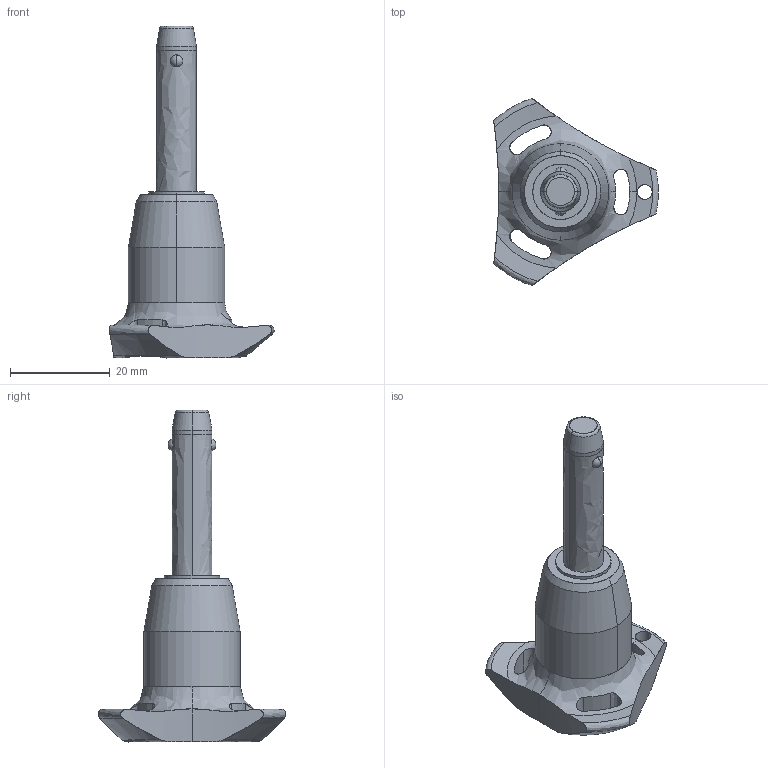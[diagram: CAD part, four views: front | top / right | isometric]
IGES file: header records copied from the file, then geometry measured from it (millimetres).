
Start section: SolidWorks IGES file using analytic representation for surfaces
Global section: file name: C:\Users\ianosborn\Desktop\33060_v2\33060.BK_v2_20240910_IGES\33060.W0835.igs; native system: SolidWorks 2019; preprocessor: SolidWorks 2019; author: IanOsborn; date: 240910.200915; units: millimetre
Bounding box: 33 x 37.51 x 66.5 mm (x, y, z)
Surface area: 4683.1 mm2 (no closed solid volume)
Topology: 0 solids, 0 shells, 68 faces, 1350 edges, 1346 vertices
Faces by surface type: revolution 52, bspline 16
